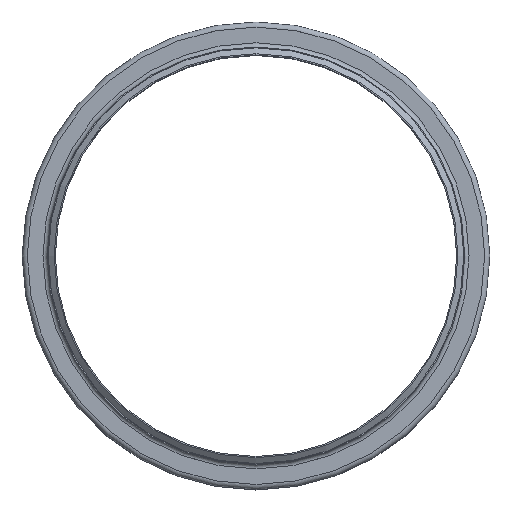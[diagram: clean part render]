
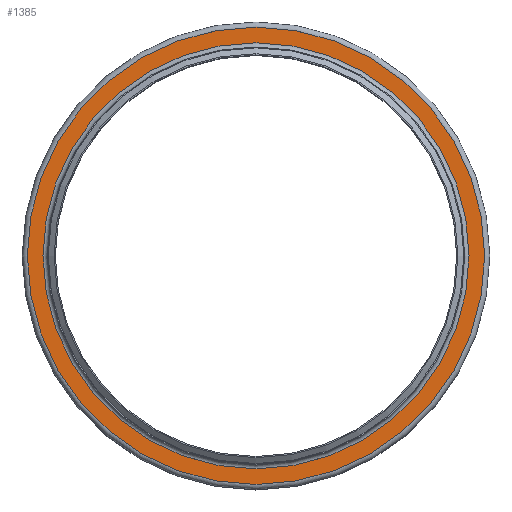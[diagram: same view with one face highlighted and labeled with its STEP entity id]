
A CAD part, top view. The second image highlights one B-rep face of the part: STEP entity #1385.
In plain terms, the highlighted planar face has unit normal (0, 0, 1).
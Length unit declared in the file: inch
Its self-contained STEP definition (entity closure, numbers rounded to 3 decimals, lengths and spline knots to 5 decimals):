
#155=FACE_BOUND('',#416,.T.);
#256=FACE_OUTER_BOUND('',#415,.T.);
#415=EDGE_LOOP('',(#1168));
#416=EDGE_LOOP('',(#1169));
#584=CIRCLE('',#1684,11.274);
#585=CIRCLE('',#1686,12.101);
#703=VERTEX_POINT('',#2631);
#704=VERTEX_POINT('',#2635);
#862=EDGE_CURVE('',#703,#703,#584,.T.);
#863=EDGE_CURVE('',#704,#704,#585,.T.);
#1168=ORIENTED_EDGE('',*,*,#863,.F.);
#1169=ORIENTED_EDGE('',*,*,#862,.T.);
#1284=PLANE('',#1685);
#1385=ADVANCED_FACE('',(#256,#155),#1284,.T.);
#1684=AXIS2_PLACEMENT_3D('',#2633,#2197,#2198);
#1685=AXIS2_PLACEMENT_3D('',#2634,#2199,#2200);
#1686=AXIS2_PLACEMENT_3D('',#2636,#2201,#2202);
#2197=DIRECTION('center_axis',(0.,0.,-1.));
#2198=DIRECTION('ref_axis',(1.,0.,0.));
#2199=DIRECTION('center_axis',(0.,0.,1.));
#2200=DIRECTION('ref_axis',(1.,0.,0.));
#2201=DIRECTION('center_axis',(0.,0.,-1.));
#2202=DIRECTION('ref_axis',(1.,0.,0.));
#2631=CARTESIAN_POINT('',(11.274,0.,-0.226));
#2633=CARTESIAN_POINT('Origin',(0.,0.,-0.226));
#2634=CARTESIAN_POINT('Origin',(0.,12.101,-0.226));
#2635=CARTESIAN_POINT('',(12.101,0.,-0.226));
#2636=CARTESIAN_POINT('Origin',(0.,0.,-0.226));
